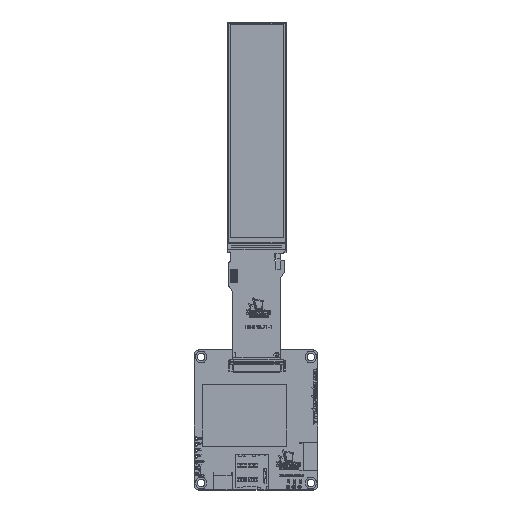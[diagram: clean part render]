
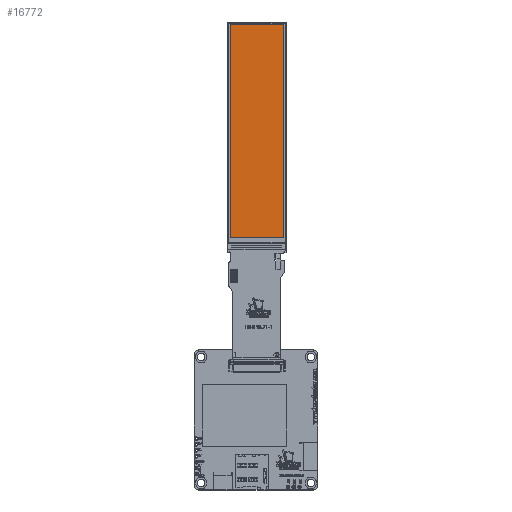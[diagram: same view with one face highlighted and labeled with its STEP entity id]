
A CAD part, top view. The second image highlights one B-rep face of the part: STEP entity #16772.
In plain terms, the highlighted planar face has unit normal (0, 0, 1).
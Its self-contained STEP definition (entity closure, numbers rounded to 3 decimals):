
#2849 = VECTOR ( 'NONE', #224113, 1000. ) ;
#7952 = CARTESIAN_POINT ( 'NONE',  ( -11.43, -43.095, 1.6 ) ) ;
#12798 = CARTESIAN_POINT ( 'NONE',  ( 11.43, -43.095, 1.6 ) ) ;
#13764 = DIRECTION ( 'NONE',  ( 1., 0., 0. ) ) ;
#14042 = EDGE_CURVE ( 'NONE', #202800, #253800, #211251, .T. ) ;
#16772 = ADVANCED_FACE ( 'NONE', ( #73447 ), #92848, .T. ) ;
#24034 = CARTESIAN_POINT ( 'NONE',  ( 11.43, 48.345, 1.6 ) ) ;
#31682 = ORIENTED_EDGE ( 'NONE', *, *, #249221, .F. ) ;
#55813 = CARTESIAN_POINT ( 'NONE',  ( 11.43, 0., 1.6 ) ) ;
#56320 = VECTOR ( 'NONE', #248791, 1000. ) ;
#73447 = FACE_OUTER_BOUND ( 'NONE', #213959, .T. ) ;
#92848 = PLANE ( 'NONE',  #211089 ) ;
#98511 = VERTEX_POINT ( 'NONE', #12798 ) ;
#116359 = DIRECTION ( 'NONE',  ( 0., 0., 1. ) ) ;
#118369 = VERTEX_POINT ( 'NONE', #24034 ) ;
#139663 = LINE ( 'NONE', #179769, #2849 ) ;
#157034 = DIRECTION ( 'NONE',  ( -1., 0., 0. ) ) ;
#163806 = LINE ( 'NONE', #55813, #218461 ) ;
#166549 = DIRECTION ( 'NONE',  ( 0., -1., 0. ) ) ;
#168661 = ORIENTED_EDGE ( 'NONE', *, *, #265537, .F. ) ;
#174904 = ORIENTED_EDGE ( 'NONE', *, *, #234078, .F. ) ;
#175065 = LINE ( 'NONE', #262316, #203561 ) ;
#179769 = CARTESIAN_POINT ( 'NONE',  ( 0., 48.345, 1.6 ) ) ;
#196394 = ORIENTED_EDGE ( 'NONE', *, *, #14042, .F. ) ;
#202281 = CARTESIAN_POINT ( 'NONE',  ( 0., 0., 1.6 ) ) ;
#202800 = VERTEX_POINT ( 'NONE', #7952 ) ;
#203561 = VECTOR ( 'NONE', #157034, 1000. ) ;
#211089 = AXIS2_PLACEMENT_3D ( 'NONE', #202281, #116359, #13764 ) ;
#211251 = LINE ( 'NONE', #252880, #56320 ) ;
#213959 = EDGE_LOOP ( 'NONE', ( #196394, #174904, #31682, #168661 ) ) ;
#218461 = VECTOR ( 'NONE', #166549, 1000. ) ;
#224113 = DIRECTION ( 'NONE',  ( 1., 0., 0. ) ) ;
#232579 = CARTESIAN_POINT ( 'NONE',  ( -11.43, 48.345, 1.6 ) ) ;
#234078 = EDGE_CURVE ( 'NONE', #98511, #202800, #175065, .T. ) ;
#248791 = DIRECTION ( 'NONE',  ( 0., 1., 0. ) ) ;
#249221 = EDGE_CURVE ( 'NONE', #118369, #98511, #163806, .T. ) ;
#252880 = CARTESIAN_POINT ( 'NONE',  ( -11.43, 0., 1.6 ) ) ;
#253800 = VERTEX_POINT ( 'NONE', #232579 ) ;
#262316 = CARTESIAN_POINT ( 'NONE',  ( 0., -43.095, 1.6 ) ) ;
#265537 = EDGE_CURVE ( 'NONE', #253800, #118369, #139663, .T. ) ;
